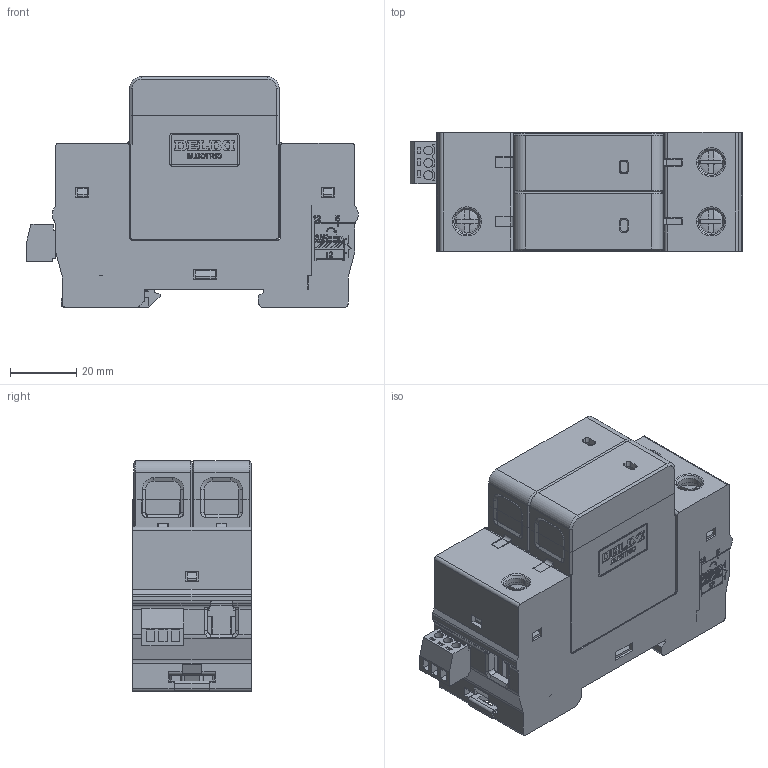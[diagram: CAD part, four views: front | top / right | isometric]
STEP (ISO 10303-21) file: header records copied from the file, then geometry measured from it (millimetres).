
FILE_DESCRIPTION((''),'2;1');
FILE_NAME('DZ47VY-65-2P_ASM','2024-01-31T',('linxiao.guan'),(''),'PRO/ENGINEER BY PARAMETRIC TECHNOLOGY CORPORATION, 2015440','PRO/ENGINEER BY PARAMETRIC TECHNOLOGY CORPORATION, 2015440','');
FILE_SCHEMA(('CONFIG_CONTROL_DESIGN'));
Products named in the file (5): PRT0001_AF0_1; 8005031500_1; DZ47VY-65-2P_ASM_1_ASM; 15EDGK-3_81-3_15EDGRC-3_81-3; DZ47VY-65-2P_ASM
Assembly tree (5 placements, depth 3):
  DZ47VY-65-2P_ASM
    DZ47VY-65-2P_ASM_1_ASM
      PRT0001_AF0_1
      8005031500_1  x2
    15EDGK-3_81-3_15EDGRC-3_81-3
Bounding box: 100 x 35.8 x 69.5 mm (x, y, z)
Volume: 71844.1 mm3; surface area: 89701.5 mm2
Topology: 4 solids, 4 shells, 4676 faces, 13451 edges, 8906 vertices
Faces by surface type: plane 4209, cylinder 353, cone 58, torus 26, bspline 18, sphere 12
Entity records: 135331 total; most frequent: CARTESIAN_POINT 29092, ORIENTED_EDGE 23218, DIRECTION 20134, EDGE_CURVE 11609, VECTOR 10506, LINE 10506, VERTEX_POINT 7690, AXIS2_PLACEMENT_3D 4814
